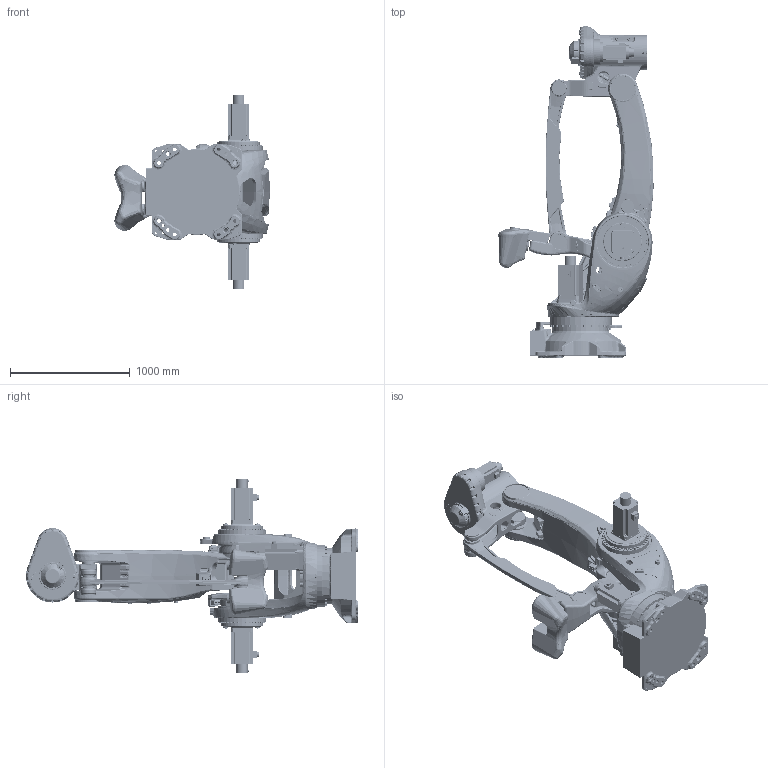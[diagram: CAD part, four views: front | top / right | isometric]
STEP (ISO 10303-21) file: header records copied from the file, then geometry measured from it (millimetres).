
FILE_DESCRIPTION (( 'STEP AP214' ), '1' );
FILE_NAME ('ER500-2800 机器人数模-1', '2026-07-27T17:40:49', ( '' ), ( '' ), 'SwSTEP 2.0', 'SolidWorks 2024', '' );
FILE_SCHEMA (( 'AUTOMOTIVE_DESIGN' ));
Length unit declared in the file: millimetre
Products named in the file (9): 装配体4^ER500-2800 机器人数模 V1.1; ___________ER500-2800 __________-2016 V1.1-3; ER500-2800 机器人数模-1; _________ER500-2800 __________-2016 V1.1; ___________ER500-2800 __________-2016 V1.1-4; _________ER500-2800 __________-2016 V1.1-2; _________ER500-2800 __________-2016 V1.1-0; ___________ER500-2800 __________-2016 V1.1; _________ER500-2800 __________-2016 V1.1-1
Assembly tree (8 placements, depth 3):
  ER500-2800 机器人数模-1
    装配体4^ER500-2800 机器人数模 V1.1
      _________ER500-2800 __________-2016 V1.1
      _________ER500-2800 __________-2016 V1.1-0
      _________ER500-2800 __________-2016 V1.1-1
      ___________ER500-2800 __________-2016 V1.1
      _________ER500-2800 __________-2016 V1.1-2
      ___________ER500-2800 __________-2016 V1.1-3
      ___________ER500-2800 __________-2016 V1.1-4
Bounding box: 1297.97 x 2776.74 x 1620.8 mm (x, y, z)
Volume: 506646297.2 mm3; surface area: 15195321.6 mm2
Topology: 23 solids, 31 shells, 8994 faces, 21649 edges, 12565 vertices
Faces by surface type: bspline 4328, cylinder 2067, plane 1344, cone 551, torus 388, sphere 316
Entity records: 603852 total; most frequent: CARTESIAN_POINT 427529, ORIENTED_EDGE 42288, DIRECTION 29662, EDGE_CURVE 21144, AXIS2_PLACEMENT_3D 12617, VERTEX_POINT 12546, EDGE_LOOP 9418, FACE_OUTER_BOUND 8994
